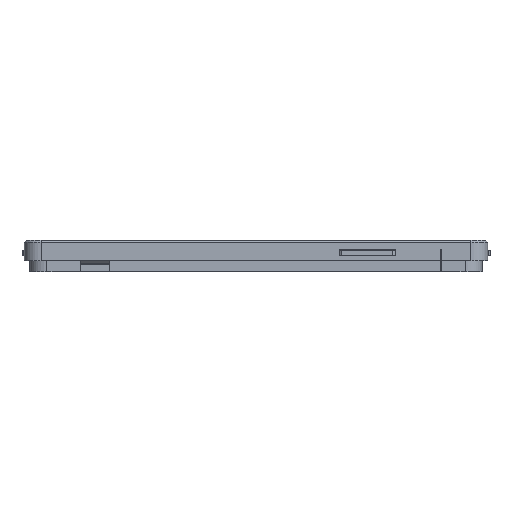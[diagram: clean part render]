
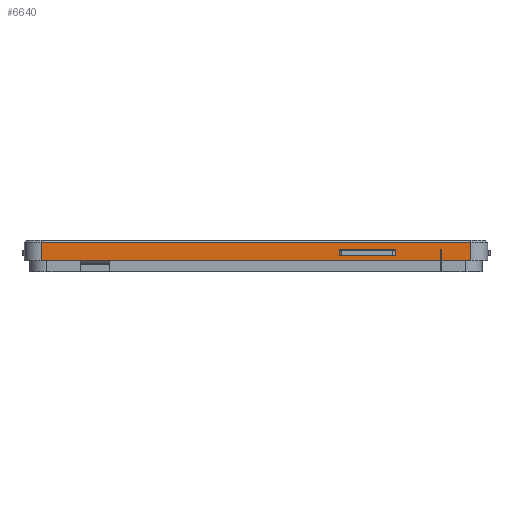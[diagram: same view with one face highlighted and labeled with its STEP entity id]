
A CAD part, front view. The second image highlights one B-rep face of the part: STEP entity #6640.
In plain terms, the highlighted planar face has unit normal (0, -1, 0).
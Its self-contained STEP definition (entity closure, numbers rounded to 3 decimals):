
#35=LINE('',#9438,#575);
#37=LINE('',#9444,#577);
#297=LINE('',#10132,#837);
#301=LINE('',#10143,#841);
#302=LINE('',#10145,#842);
#311=LINE('',#10168,#851);
#336=LINE('',#10226,#876);
#346=LINE('',#10246,#886);
#347=LINE('',#10248,#887);
#360=LINE('',#10309,#900);
#386=LINE('',#10368,#926);
#530=LINE('',#10767,#1070);
#539=LINE('',#10796,#1079);
#541=LINE('',#10799,#1081);
#575=VECTOR('',#7562,49.456);
#577=VECTOR('',#7568,0.266);
#837=VECTOR('',#8190,5.7);
#841=VECTOR('',#8204,5.7);
#842=VECTOR('',#8207,0.278);
#851=VECTOR('',#8224,353.5);
#876=VECTOR('',#8285,10.);
#886=VECTOR('',#8297,0.5);
#887=VECTOR('',#8300,50.);
#900=VECTOR('',#8367,26.);
#926=VECTOR('',#8423,10.);
#1070=VECTOR('',#8829,380.);
#1079=VECTOR('',#8862,16.);
#1081=VECTOR('',#8866,16.);
#1338=PLANE('',#7218);
#1550=FACE_BOUND('',#2394,.T.);
#1937=FACE_OUTER_BOUND('',#2393,.T.);
#2393=EDGE_LOOP('',(#5639,#5640,#5641,#5642,#5643,#5644,#5645,#5646));
#2394=EDGE_LOOP('',(#5647,#5648,#5649,#5650,#5651,#5652));
#2948=VERTEX_POINT('',#9410);
#2953=VERTEX_POINT('',#9428);
#2957=VERTEX_POINT('',#9442);
#3202=VERTEX_POINT('',#10126);
#3204=VERTEX_POINT('',#10130);
#3206=VERTEX_POINT('',#10141);
#3208=VERTEX_POINT('',#10148);
#3216=VERTEX_POINT('',#10166);
#3231=VERTEX_POINT('',#10224);
#3240=VERTEX_POINT('',#10244);
#3259=VERTEX_POINT('',#10305);
#3261=VERTEX_POINT('',#10308);
#3400=VERTEX_POINT('',#10757);
#3402=VERTEX_POINT('',#10763);
#3559=EDGE_CURVE('',#2953,#2948,#35,.T.);
#3562=EDGE_CURVE('',#2948,#2957,#37,.T.);
#3896=EDGE_CURVE('',#3202,#3204,#297,.T.);
#3902=EDGE_CURVE('',#2957,#3206,#301,.T.);
#3903=EDGE_CURVE('',#3204,#2953,#302,.T.);
#3915=EDGE_CURVE('',#3208,#3216,#311,.T.);
#3943=EDGE_CURVE('',#3216,#3231,#336,.T.);
#3953=EDGE_CURVE('',#3240,#3231,#346,.T.);
#3954=EDGE_CURVE('',#3202,#3206,#347,.T.);
#3981=EDGE_CURVE('',#3261,#3259,#360,.T.);
#4011=EDGE_CURVE('',#3261,#3240,#386,.T.);
#4204=EDGE_CURVE('',#3400,#3402,#530,.T.);
#4219=EDGE_CURVE('',#3402,#3259,#539,.T.);
#4221=EDGE_CURVE('',#3208,#3400,#541,.T.);
#5639=ORIENTED_EDGE('',*,*,#4221,.F.);
#5640=ORIENTED_EDGE('',*,*,#3915,.T.);
#5641=ORIENTED_EDGE('',*,*,#3943,.T.);
#5642=ORIENTED_EDGE('',*,*,#3953,.F.);
#5643=ORIENTED_EDGE('',*,*,#4011,.F.);
#5644=ORIENTED_EDGE('',*,*,#3981,.T.);
#5645=ORIENTED_EDGE('',*,*,#4219,.F.);
#5646=ORIENTED_EDGE('',*,*,#4204,.F.);
#5647=ORIENTED_EDGE('',*,*,#3954,.F.);
#5648=ORIENTED_EDGE('',*,*,#3896,.T.);
#5649=ORIENTED_EDGE('',*,*,#3903,.T.);
#5650=ORIENTED_EDGE('',*,*,#3559,.T.);
#5651=ORIENTED_EDGE('',*,*,#3562,.T.);
#5652=ORIENTED_EDGE('',*,*,#3902,.T.);
#6640=ADVANCED_FACE('',(#1937,#1550),#1338,.T.);
#7218=AXIS2_PLACEMENT_3D('',#10798,#8864,#8865);
#7562=DIRECTION('',(-1.,0.,0.));
#7568=DIRECTION('',(-1.,0.,0.));
#8190=DIRECTION('',(0.,0.,-1.));
#8204=DIRECTION('',(0.,0.,1.));
#8207=DIRECTION('',(-1.,0.,0.));
#8224=DIRECTION('',(1.,0.,0.));
#8285=DIRECTION('',(0.,0.,1.));
#8297=DIRECTION('',(-1.,0.,0.));
#8300=DIRECTION('',(-1.,0.,0.));
#8367=DIRECTION('',(1.,0.,0.));
#8423=DIRECTION('',(0.,0.,1.));
#8829=DIRECTION('',(1.,0.,0.));
#8862=DIRECTION('',(0.,0.,-1.));
#8864=DIRECTION('center_axis',(0.,-1.,0.));
#8865=DIRECTION('ref_axis',(1.,0.,0.));
#8866=DIRECTION('',(0.,0.,1.));
#9410=CARTESIAN_POINT('',(73.766,-205.,-5.7));
#9428=CARTESIAN_POINT('',(123.222,-205.,-5.7));
#9438=CARTESIAN_POINT('',(38.875,-205.,-5.7));
#9442=CARTESIAN_POINT('',(73.5,-205.,-5.7));
#9444=CARTESIAN_POINT('',(38.875,-205.,-5.7));
#10126=CARTESIAN_POINT('',(123.5,-205.,0.));
#10130=CARTESIAN_POINT('',(123.5,-205.,-5.7));
#10132=CARTESIAN_POINT('',(123.5,-205.,-2.5));
#10141=CARTESIAN_POINT('',(73.5,-205.,0.));
#10143=CARTESIAN_POINT('',(73.5,-205.,-2.5));
#10145=CARTESIAN_POINT('',(38.875,-205.,-5.7));
#10148=CARTESIAN_POINT('',(-190.,-205.,-10.));
#10166=CARTESIAN_POINT('',(163.5,-205.,-10.));
#10168=CARTESIAN_POINT('',(-205.,-205.,-10.));
#10224=CARTESIAN_POINT('',(163.5,-205.,0.));
#10226=CARTESIAN_POINT('',(163.5,-205.,-20.));
#10244=CARTESIAN_POINT('',(164.,-205.,0.));
#10246=CARTESIAN_POINT('',(205.,-205.,0.));
#10248=CARTESIAN_POINT('',(205.,-205.,0.));
#10305=CARTESIAN_POINT('',(190.,-205.,-10.));
#10308=CARTESIAN_POINT('',(164.,-205.,-10.));
#10309=CARTESIAN_POINT('',(182.,-205.,-10.));
#10368=CARTESIAN_POINT('',(164.,-205.,0.));
#10757=CARTESIAN_POINT('',(-190.,-205.,6.));
#10763=CARTESIAN_POINT('',(190.,-205.,6.));
#10767=CARTESIAN_POINT('',(-102.5,-205.,6.));
#10796=CARTESIAN_POINT('',(190.,-205.,0.));
#10798=CARTESIAN_POINT('Origin',(-205.,-205.,0.));
#10799=CARTESIAN_POINT('',(-190.,-205.,0.));
